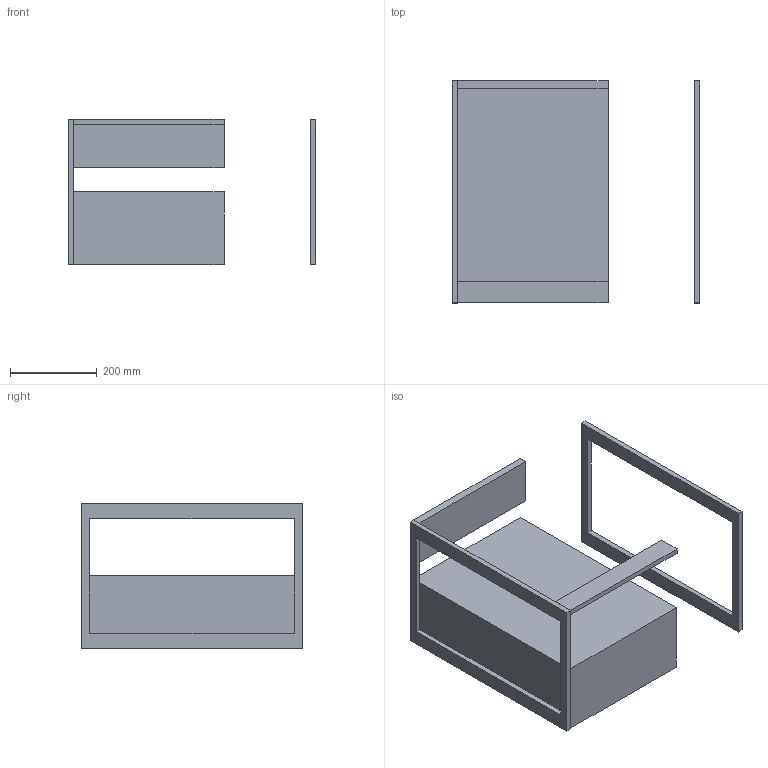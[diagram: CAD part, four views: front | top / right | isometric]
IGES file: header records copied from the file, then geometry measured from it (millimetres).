
Start section: Data from Parasolid IGES Translator 19.0.9, Copyright(c) 2006 Siemens PL M Software. All Rights Reserved.
Global section: file name: noorth-FJ-H 33,5 D 51,2 W 36_6690.igs; native system: By Siemens PLM Incorporated; preprocessor: XPlus GENERIC/IGES 19.0.9; author: Noname; organization: Noname; date: 20200507.120024; units: metre
Bounding box: 572 x 512 x 335 mm (x, y, z)
Volume: 11642317 mm3; surface area: 1690529.1 mm2
Topology: 10 solids, 10 shells, 70 faces, 150 edges, 100 vertices
Faces by surface type: plane 70
